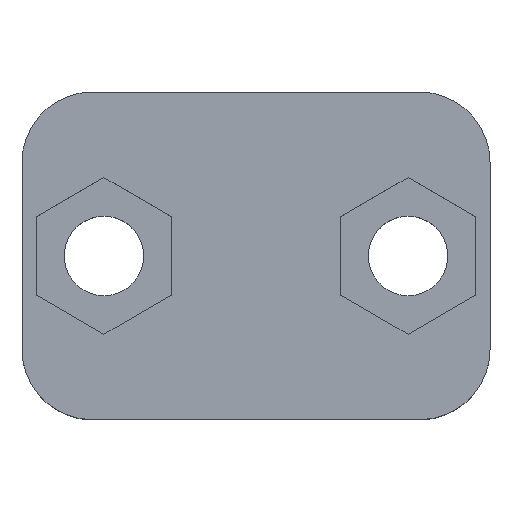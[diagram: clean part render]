
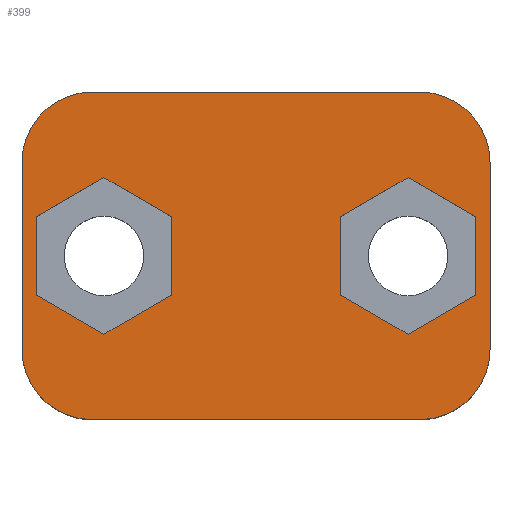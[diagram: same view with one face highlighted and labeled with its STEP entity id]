
A CAD part, top view. The second image highlights one B-rep face of the part: STEP entity #399.
In plain terms, the highlighted planar face has unit normal (0, 0, 1).
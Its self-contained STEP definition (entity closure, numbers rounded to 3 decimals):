
#21 = EDGE_CURVE('',#22,#24,#26,.T.);
#22 = VERTEX_POINT('',#23);
#23 = CARTESIAN_POINT('',(-10.,-4.,7.));
#24 = VERTEX_POINT('',#25);
#25 = CARTESIAN_POINT('',(-10.,4.,7.));
#26 = LINE('',#27,#28);
#27 = CARTESIAN_POINT('',(-10.,-7.,7.));
#28 = VECTOR('',#29,1.);
#29 = DIRECTION('',(0.,1.,0.));
#71 = VERTEX_POINT('',#72);
#72 = CARTESIAN_POINT('',(-7.,-7.,7.));
#78 = EDGE_CURVE('',#22,#71,#79,.T.);
#79 = CIRCLE('',#80,3.);
#80 = AXIS2_PLACEMENT_3D('',#81,#82,#83);
#81 = CARTESIAN_POINT('',(-7.,-4.,7.));
#82 = DIRECTION('',(-0.,0.,1.));
#83 = DIRECTION('',(0.,-1.,0.));
#104 = VERTEX_POINT('',#105);
#105 = CARTESIAN_POINT('',(-7.,7.,7.));
#111 = EDGE_CURVE('',#24,#104,#112,.T.);
#112 = CIRCLE('',#113,3.);
#113 = AXIS2_PLACEMENT_3D('',#114,#115,#116);
#114 = CARTESIAN_POINT('',(-7.,4.,7.));
#115 = DIRECTION('',(-0.,-0.,-1.));
#116 = DIRECTION('',(0.,-1.,0.));
#173 = EDGE_CURVE('',#71,#174,#176,.T.);
#174 = VERTEX_POINT('',#175);
#175 = CARTESIAN_POINT('',(7.,-7.,7.));
#176 = LINE('',#177,#178);
#177 = CARTESIAN_POINT('',(-10.,-7.,7.));
#178 = VECTOR('',#179,1.);
#179 = DIRECTION('',(1.,0.,0.));
#223 = EDGE_CURVE('',#104,#224,#226,.T.);
#224 = VERTEX_POINT('',#225);
#225 = CARTESIAN_POINT('',(7.,7.,7.));
#226 = LINE('',#227,#228);
#227 = CARTESIAN_POINT('',(-10.,7.,7.));
#228 = VECTOR('',#229,1.);
#229 = DIRECTION('',(1.,0.,0.));
#281 = EDGE_CURVE('',#282,#174,#284,.T.);
#282 = VERTEX_POINT('',#283);
#283 = CARTESIAN_POINT('',(10.,-4.,7.));
#284 = CIRCLE('',#285,3.);
#285 = AXIS2_PLACEMENT_3D('',#286,#287,#288);
#286 = CARTESIAN_POINT('',(7.,-4.,7.));
#287 = DIRECTION('',(-0.,-0.,-1.));
#288 = DIRECTION('',(0.,-1.,0.));
#314 = EDGE_CURVE('',#315,#224,#317,.T.);
#315 = VERTEX_POINT('',#316);
#316 = CARTESIAN_POINT('',(10.,4.,7.));
#317 = CIRCLE('',#318,3.);
#318 = AXIS2_PLACEMENT_3D('',#319,#320,#321);
#319 = CARTESIAN_POINT('',(7.,4.,7.));
#320 = DIRECTION('',(-0.,0.,1.));
#321 = DIRECTION('',(0.,-1.,0.));
#337 = EDGE_CURVE('',#282,#315,#338,.T.);
#338 = LINE('',#339,#340);
#339 = CARTESIAN_POINT('',(10.,-7.,7.));
#340 = VECTOR('',#341,1.);
#341 = DIRECTION('',(0.,1.,0.));
#399 = ADVANCED_FACE('',(#400,#410,#460),#510,.T.);
#400 = FACE_BOUND('',#401,.T.);
#401 = EDGE_LOOP('',(#402,#403,#404,#405,#406,#407,#408,#409));
#402 = ORIENTED_EDGE('',*,*,#21,.F.);
#403 = ORIENTED_EDGE('',*,*,#78,.T.);
#404 = ORIENTED_EDGE('',*,*,#173,.T.);
#405 = ORIENTED_EDGE('',*,*,#281,.F.);
#406 = ORIENTED_EDGE('',*,*,#337,.T.);
#407 = ORIENTED_EDGE('',*,*,#314,.T.);
#408 = ORIENTED_EDGE('',*,*,#223,.F.);
#409 = ORIENTED_EDGE('',*,*,#111,.F.);
#410 = FACE_BOUND('',#411,.T.);
#411 = EDGE_LOOP('',(#412,#422,#430,#438,#446,#454));
#412 = ORIENTED_EDGE('',*,*,#413,.T.);
#413 = EDGE_CURVE('',#414,#416,#418,.T.);
#414 = VERTEX_POINT('',#415);
#415 = CARTESIAN_POINT('',(-3.6,1.674,7.));
#416 = VERTEX_POINT('',#417);
#417 = CARTESIAN_POINT('',(-3.6,-1.674,7.));
#418 = LINE('',#419,#420);
#419 = CARTESIAN_POINT('',(-3.6,-4.337,7.));
#420 = VECTOR('',#421,1.);
#421 = DIRECTION('',(0.,-1.,0.));
#422 = ORIENTED_EDGE('',*,*,#423,.T.);
#423 = EDGE_CURVE('',#416,#424,#426,.T.);
#424 = VERTEX_POINT('',#425);
#425 = CARTESIAN_POINT('',(-6.5,-3.349,7.));
#426 = LINE('',#427,#428);
#427 = CARTESIAN_POINT('',(-8.603,-4.563,7.));
#428 = VECTOR('',#429,1.);
#429 = DIRECTION('',(-0.866,-0.5,0.));
#430 = ORIENTED_EDGE('',*,*,#431,.T.);
#431 = EDGE_CURVE('',#424,#432,#434,.T.);
#432 = VERTEX_POINT('',#433);
#433 = CARTESIAN_POINT('',(-9.4,-1.674,7.));
#434 = LINE('',#435,#436);
#435 = CARTESIAN_POINT('',(-8.472,-2.21,7.));
#436 = VECTOR('',#437,1.);
#437 = DIRECTION('',(-0.866,0.5,0.));
#438 = ORIENTED_EDGE('',*,*,#439,.T.);
#439 = EDGE_CURVE('',#432,#440,#442,.T.);
#440 = VERTEX_POINT('',#441);
#441 = CARTESIAN_POINT('',(-9.4,1.674,7.));
#442 = LINE('',#443,#444);
#443 = CARTESIAN_POINT('',(-9.4,-2.663,7.));
#444 = VECTOR('',#445,1.);
#445 = DIRECTION('',(0.,1.,0.));
#446 = ORIENTED_EDGE('',*,*,#447,.T.);
#447 = EDGE_CURVE('',#440,#448,#450,.T.);
#448 = VERTEX_POINT('',#449);
#449 = CARTESIAN_POINT('',(-6.5,3.349,7.));
#450 = LINE('',#451,#452);
#451 = CARTESIAN_POINT('',(-10.053,1.297,7.));
#452 = VECTOR('',#453,1.);
#453 = DIRECTION('',(0.866,0.5,0.));
#454 = ORIENTED_EDGE('',*,*,#455,.T.);
#455 = EDGE_CURVE('',#448,#414,#456,.T.);
#456 = LINE('',#457,#458);
#457 = CARTESIAN_POINT('',(-4.122,1.976,7.));
#458 = VECTOR('',#459,1.);
#459 = DIRECTION('',(0.866,-0.5,0.));
#460 = FACE_BOUND('',#461,.T.);
#461 = EDGE_LOOP('',(#462,#472,#480,#488,#496,#504));
#462 = ORIENTED_EDGE('',*,*,#463,.T.);
#463 = EDGE_CURVE('',#464,#466,#468,.T.);
#464 = VERTEX_POINT('',#465);
#465 = CARTESIAN_POINT('',(9.4,1.674,7.));
#466 = VERTEX_POINT('',#467);
#467 = CARTESIAN_POINT('',(9.4,-1.674,7.));
#468 = LINE('',#469,#470);
#469 = CARTESIAN_POINT('',(9.4,-4.337,7.));
#470 = VECTOR('',#471,1.);
#471 = DIRECTION('',(0.,-1.,0.));
#472 = ORIENTED_EDGE('',*,*,#473,.T.);
#473 = EDGE_CURVE('',#466,#474,#476,.T.);
#474 = VERTEX_POINT('',#475);
#475 = CARTESIAN_POINT('',(6.5,-3.349,7.));
#476 = LINE('',#477,#478);
#477 = CARTESIAN_POINT('',(-0.478,-7.377,7.));
#478 = VECTOR('',#479,1.);
#479 = DIRECTION('',(-0.866,-0.5,0.));
#480 = ORIENTED_EDGE('',*,*,#481,.T.);
#481 = EDGE_CURVE('',#474,#482,#484,.T.);
#482 = VERTEX_POINT('',#483);
#483 = CARTESIAN_POINT('',(3.6,-1.674,7.));
#484 = LINE('',#485,#486);
#485 = CARTESIAN_POINT('',(-0.347,0.604,7.));
#486 = VECTOR('',#487,1.);
#487 = DIRECTION('',(-0.866,0.5,0.));
#488 = ORIENTED_EDGE('',*,*,#489,.T.);
#489 = EDGE_CURVE('',#482,#490,#492,.T.);
#490 = VERTEX_POINT('',#491);
#491 = CARTESIAN_POINT('',(3.6,1.674,7.));
#492 = LINE('',#493,#494);
#493 = CARTESIAN_POINT('',(3.6,-2.663,7.));
#494 = VECTOR('',#495,1.);
#495 = DIRECTION('',(0.,1.,0.));
#496 = ORIENTED_EDGE('',*,*,#497,.T.);
#497 = EDGE_CURVE('',#490,#498,#500,.T.);
#498 = VERTEX_POINT('',#499);
#499 = CARTESIAN_POINT('',(6.5,3.349,7.));
#500 = LINE('',#501,#502);
#501 = CARTESIAN_POINT('',(-1.928,-1.517,7.));
#502 = VECTOR('',#503,1.);
#503 = DIRECTION('',(0.866,0.5,0.));
#504 = ORIENTED_EDGE('',*,*,#505,.T.);
#505 = EDGE_CURVE('',#498,#464,#506,.T.);
#506 = LINE('',#507,#508);
#507 = CARTESIAN_POINT('',(4.003,4.79,7.));
#508 = VECTOR('',#509,1.);
#509 = DIRECTION('',(0.866,-0.5,0.));
#510 = PLANE('',#511);
#511 = AXIS2_PLACEMENT_3D('',#512,#513,#514);
#512 = CARTESIAN_POINT('',(-10.,-7.,7.));
#513 = DIRECTION('',(0.,0.,1.));
#514 = DIRECTION('',(1.,0.,0.));
